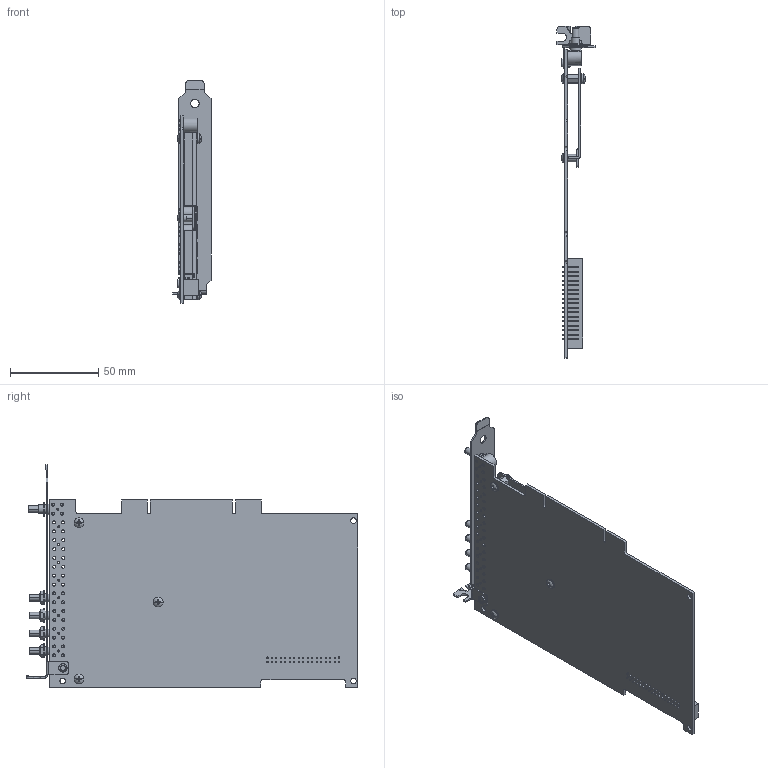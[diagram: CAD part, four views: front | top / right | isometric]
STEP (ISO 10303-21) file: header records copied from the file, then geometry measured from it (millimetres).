
FILE_DESCRIPTION((''),'2;1');
FILE_NAME('CU_PCI-4474','2011-08-22T',('dkendric'),(''),'PRO/ENGINEER BY PARAMETRIC TECHNOLOGY CORPORATION, 2010230','PRO/ENGINEER BY PARAMETRIC TECHNOLOGY CORPORATION, 2010230','');
FILE_SCHEMA(('CONFIG_CONTROL_DESIGN'));
Length unit declared in the file: inch
Products named in the file (1): CU_PCI-4474
Bounding box: 21.59 x 187.91 x 126.22 mm (x, y, z)
Volume: 40974.8 mm3; surface area: 58686.5 mm2
Topology: 6 solids, 10 shells, 1531 faces, 4079 edges, 2519 vertices
Faces by surface type: plane 992, cylinder 368, bspline 127, torus 16, cone 16, sphere 12
Entity records: 50589 total; most frequent: CARTESIAN_POINT 12723, ORIENTED_EDGE 7918, DIRECTION 7521, EDGE_CURVE 3959, VECTOR 2671, LINE 2671, VERTEX_POINT 2633, AXIS2_PLACEMENT_3D 2425
